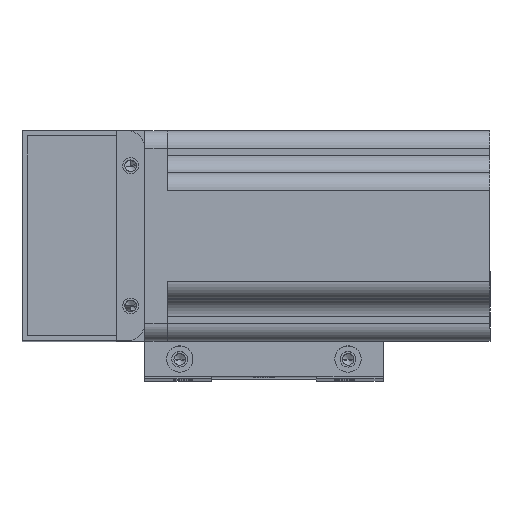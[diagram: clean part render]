
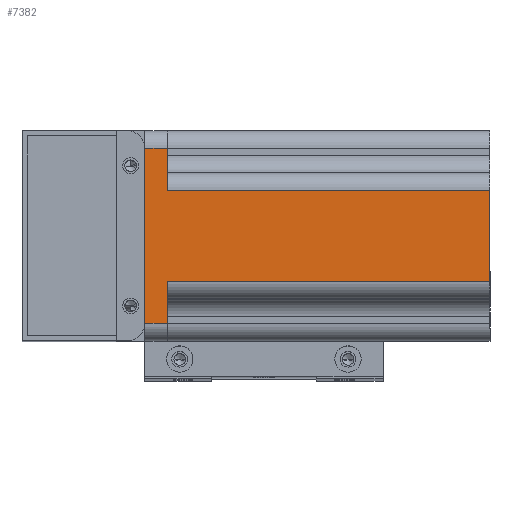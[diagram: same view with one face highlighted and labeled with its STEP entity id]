
A CAD part, top view. The second image highlights one B-rep face of the part: STEP entity #7382.
In plain terms, the highlighted planar face has unit normal (0, 0, 1) as drawn and (-1, 0, 0) by its records, which use the part's own axes.
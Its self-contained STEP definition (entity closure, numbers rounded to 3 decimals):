
#1255 = ORIENTED_EDGE ( 'NONE', *, *, #8679, .F. ) ;
#1538 = ORIENTED_EDGE ( 'NONE', *, *, #25893, .T. ) ;
#1558 = DIRECTION ( 'NONE',  ( 0., -1., 0. ) ) ;
#1707 = CARTESIAN_POINT ( 'NONE',  ( -30., -25., 6.5 ) ) ;
#1848 = CARTESIAN_POINT ( 'NONE',  ( -30., -13., 0. ) ) ;
#2713 = CARTESIAN_POINT ( 'NONE',  ( -30., 13., 0. ) ) ;
#3258 = ORIENTED_EDGE ( 'NONE', *, *, #8925, .T. ) ;
#3373 = ORIENTED_EDGE ( 'NONE', *, *, #4682, .F. ) ;
#3779 = AXIS2_PLACEMENT_3D ( 'NONE', #5235, #25858, #5146 ) ;
#4682 = EDGE_CURVE ( 'NONE', #17257, #22433, #10338, .T. ) ;
#5146 = DIRECTION ( 'NONE',  ( 0., 0., -1. ) ) ;
#5235 = CARTESIAN_POINT ( 'NONE',  ( -30., -25., 6.5 ) ) ;
#5310 = DIRECTION ( 'NONE',  ( 0., 0., 1. ) ) ;
#5374 = VECTOR ( 'NONE', #13530, 1000. ) ;
#5888 = CARTESIAN_POINT ( 'NONE',  ( -30., -25., 0. ) ) ;
#5911 = CARTESIAN_POINT ( 'NONE',  ( -30., -25., 0. ) ) ;
#6253 = CARTESIAN_POINT ( 'NONE',  ( -30., -25., 6.5 ) ) ;
#6671 = LINE ( 'NONE', #18928, #5374 ) ;
#6918 = VECTOR ( 'NONE', #20450, 1000. ) ;
#7122 = CARTESIAN_POINT ( 'NONE',  ( -30., 13., 6.5 ) ) ;
#7180 = VECTOR ( 'NONE', #18648, 1000. ) ;
#7382 = ADVANCED_FACE ( 'NONE', ( #16006 ), #17541, .F. ) ;
#7773 = LINE ( 'NONE', #5911, #23238 ) ;
#8407 = VERTEX_POINT ( 'NONE', #1848 ) ;
#8679 = EDGE_CURVE ( 'NONE', #23231, #11076, #22095, .T. ) ;
#8925 = EDGE_CURVE ( 'NONE', #15218, #18739, #15618, .T. ) ;
#9272 = CARTESIAN_POINT ( 'NONE',  ( -30., -18., -92. ) ) ;
#10338 = LINE ( 'NONE', #25721, #14866 ) ;
#10441 = EDGE_CURVE ( 'NONE', #23231, #8407, #26209, .T. ) ;
#11076 = VERTEX_POINT ( 'NONE', #17582 ) ;
#11088 = CARTESIAN_POINT ( 'NONE',  ( -30., 25., 6.5 ) ) ;
#13103 = DIRECTION ( 'NONE',  ( 0., 1., 0. ) ) ;
#13345 = DIRECTION ( 'NONE',  ( 0., 0., -1. ) ) ;
#13530 = DIRECTION ( 'NONE',  ( 0., 0., -1. ) ) ;
#13592 = CARTESIAN_POINT ( 'NONE',  ( -30., -13., 6.5 ) ) ;
#14206 = ORIENTED_EDGE ( 'NONE', *, *, #10441, .T. ) ;
#14291 = EDGE_CURVE ( 'NONE', #17110, #15218, #6671, .T. ) ;
#14651 = ORIENTED_EDGE ( 'NONE', *, *, #25484, .T. ) ;
#14866 = VECTOR ( 'NONE', #24019, 1000. ) ;
#15218 = VERTEX_POINT ( 'NONE', #21295 ) ;
#15618 = LINE ( 'NONE', #5888, #6918 ) ;
#15739 = CARTESIAN_POINT ( 'NONE',  ( -30., -25., 0. ) ) ;
#16006 = FACE_OUTER_BOUND ( 'NONE', #18169, .T. ) ;
#17110 = VERTEX_POINT ( 'NONE', #11088 ) ;
#17257 = VERTEX_POINT ( 'NONE', #1707 ) ;
#17527 = ORIENTED_EDGE ( 'NONE', *, *, #19923, .F. ) ;
#17541 = PLANE ( 'NONE',  #3779 ) ;
#17582 = CARTESIAN_POINT ( 'NONE',  ( -30., 13., -92. ) ) ;
#18139 = VECTOR ( 'NONE', #5310, 1000. ) ;
#18169 = EDGE_LOOP ( 'NONE', ( #1255, #14206, #14651, #3373, #17527, #22071, #3258, #1538 ) ) ;
#18648 = DIRECTION ( 'NONE',  ( 0., -1., 0. ) ) ;
#18739 = VERTEX_POINT ( 'NONE', #2713 ) ;
#18928 = CARTESIAN_POINT ( 'NONE',  ( -30., 25., 6.5 ) ) ;
#19923 = EDGE_CURVE ( 'NONE', #17110, #17257, #22702, .T. ) ;
#20450 = DIRECTION ( 'NONE',  ( 0., -1., 0. ) ) ;
#20798 = VECTOR ( 'NONE', #13103, 1000. ) ;
#21295 = CARTESIAN_POINT ( 'NONE',  ( -30., 25., 0. ) ) ;
#22071 = ORIENTED_EDGE ( 'NONE', *, *, #14291, .T. ) ;
#22095 = LINE ( 'NONE', #9272, #20798 ) ;
#22433 = VERTEX_POINT ( 'NONE', #15739 ) ;
#22702 = LINE ( 'NONE', #6253, #7180 ) ;
#23231 = VERTEX_POINT ( 'NONE', #26033 ) ;
#23238 = VECTOR ( 'NONE', #1558, 1000. ) ;
#23860 = LINE ( 'NONE', #7122, #26112 ) ;
#24019 = DIRECTION ( 'NONE',  ( 0., 0., -1. ) ) ;
#25484 = EDGE_CURVE ( 'NONE', #8407, #22433, #7773, .T. ) ;
#25721 = CARTESIAN_POINT ( 'NONE',  ( -30., -25., 6.5 ) ) ;
#25858 = DIRECTION ( 'NONE',  ( 1., 0., 0. ) ) ;
#25893 = EDGE_CURVE ( 'NONE', #18739, #11076, #23860, .T. ) ;
#26033 = CARTESIAN_POINT ( 'NONE',  ( -30., -13., -92. ) ) ;
#26112 = VECTOR ( 'NONE', #13345, 1000. ) ;
#26209 = LINE ( 'NONE', #13592, #18139 ) ;
